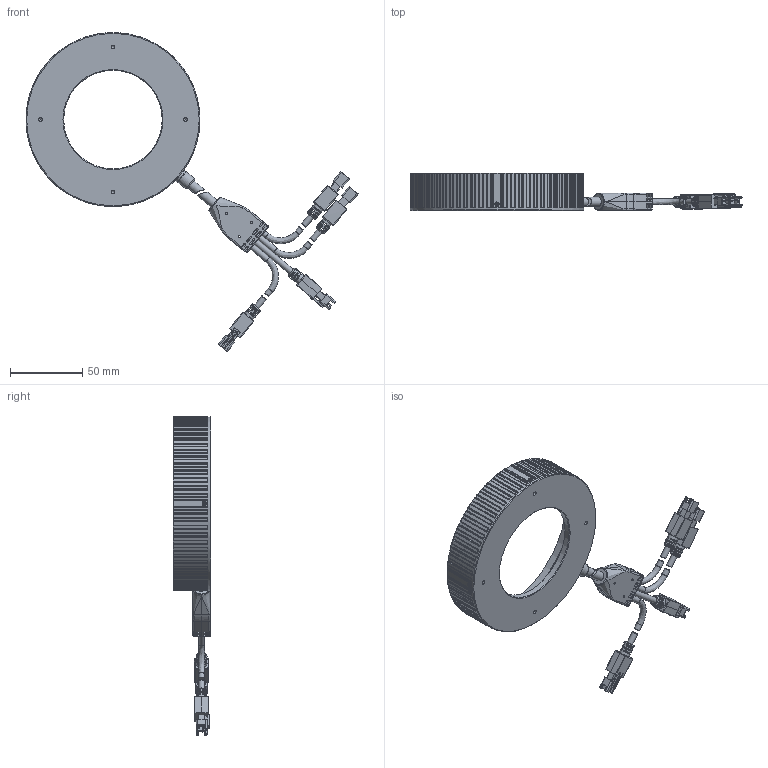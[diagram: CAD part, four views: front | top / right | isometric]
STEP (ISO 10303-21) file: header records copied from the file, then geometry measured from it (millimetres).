
FILE_DESCRIPTION (( 'STEP AP203' ), '1' );
FILE_NAME ('OPT-MSRI12045-X-V1.0尨砩芞.STEP', '2025-02-12T02:58:01', ( '' ), ( '' ), 'SwSTEP 2.0', 'SolidWorks 2016', '' );
FILE_SCHEMA (( 'CONFIG_CONTROL_DESIGN' ));
Length unit declared in the file: millimetre
Products named in the file (1): OPT-MSRI12045-X-V1.0尨砩芞
Bounding box: 229.05 x 26 x 219.92 mm (x, y, z)
Surface area: 56344.7 mm2 (no closed solid volume)
Topology: 0 solids, 25 shells, 1532 faces, 4373 edges, 2831 vertices
Faces by surface type: plane 747, cylinder 586, cone 127, bspline 58, torus 14
Full cylindrical faces by diameter (mm): 1.1 x4, 1.4 x4, 1.5 x3, 1.6 x4, 2 x4, 2.2 x4, 2.5 x4, 4.1 x10, 5 x1, 6.4 x2, 7.5 x4, 8.6 x1, 9.3 x1, 9.8 x1, 68 x1, 77.5 x1, 112 x1, 116 x1, 120 x1
Entity records: 57406 total; most frequent: CARTESIAN_POINT 20109, ORIENTED_EDGE 8065, DIRECTION 6958, EDGE_CURVE 4216, VERTEX_POINT 2785, AXIS2_PLACEMENT_3D 2374, VECTOR 2210, LINE 2210
